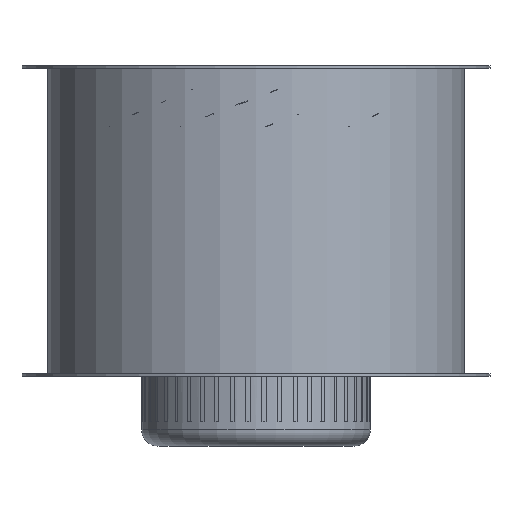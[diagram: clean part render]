
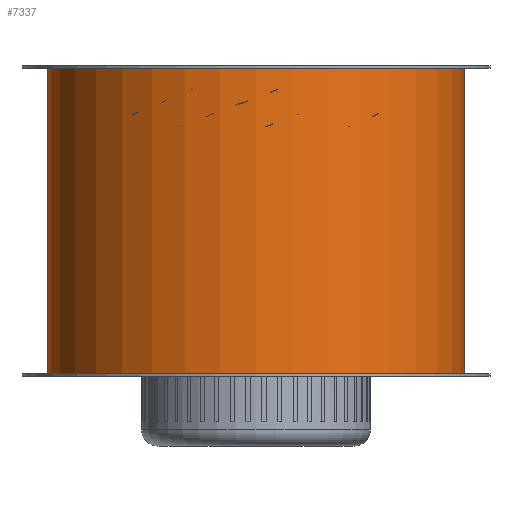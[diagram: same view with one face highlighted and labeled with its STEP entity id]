
A CAD part, front view. The second image highlights one B-rep face of the part: STEP entity #7337.
In plain terms, the highlighted cylindrical face has radius 254 mm (diameter 508 mm), a full revolution.
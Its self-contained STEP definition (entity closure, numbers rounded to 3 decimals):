
#711=FACE_OUTER_BOUND('',#1330,.T.);
#816=FACE_BOUND('',#1331,.T.);
#817=FACE_BOUND('',#1332,.T.);
#1330=EDGE_LOOP('',(#6681,#6682,#6683,#6684));
#1331=EDGE_LOOP('',(#6685,#6686));
#1332=EDGE_LOOP('',(#6687,#6688,#6689,#6690));
#1572=CIRCLE('',#7845,254.);
#1573=CIRCLE('',#7847,254.);
#1685=CIRCLE('',#8047,254.);
#1688=CIRCLE('',#8052,254.);
#1734=B_SPLINE_CURVE_WITH_KNOTS('',3,(#11641,#11642,#11643,#11644,#11645,
#11646,#11647,#11648,#11649,#11650),.UNSPECIFIED.,.F.,.F.,(4,2,2,2,4),(0.,
0.28,0.56,0.898,1.237),
 .UNSPECIFIED.);
#1735=B_SPLINE_CURVE_WITH_KNOTS('',3,(#11651,#11652,#11653,#11654,#11655,
#11656,#11657,#11658,#11659,#11660,#11661,#11662,#11663,#11664,#11665,#11666,
#11667,#11668,#11669,#11670,#11671,#11672,#11673,#11674,#11675,#11676),
 .UNSPECIFIED.,.F.,.F.,(4,2,2,2,2,2,2,2,2,2,2,2,4),(1.237,1.582,
1.926,2.207,2.488,2.769,3.05,
3.394,3.739,4.078,4.416,4.696,
4.976),.UNSPECIFIED.);
#2276=LINE('',#11741,#2807);
#2284=LINE('',#11756,#2815);
#2388=LINE('',#13932,#2919);
#2807=VECTOR('',#9442,10.);
#2815=VECTOR('',#9454,10.);
#2919=VECTOR('',#9980,254.);
#3388=VERTEX_POINT('',#11639);
#3389=VERTEX_POINT('',#11640);
#3397=VERTEX_POINT('',#11737);
#3399=VERTEX_POINT('',#11740);
#3403=VERTEX_POINT('',#11752);
#3404=VERTEX_POINT('',#11754);
#3575=VERTEX_POINT('',#13919);
#3578=VERTEX_POINT('',#13928);
#4255=EDGE_CURVE('',#3388,#3389,#1734,.T.);
#4256=EDGE_CURVE('',#3389,#3388,#1735,.T.);
#4271=EDGE_CURVE('',#3399,#3397,#2276,.T.);
#4279=EDGE_CURVE('',#3403,#3404,#2284,.T.);
#4280=EDGE_CURVE('',#3397,#3403,#1572,.T.);
#4281=EDGE_CURVE('',#3404,#3399,#1573,.T.);
#4615=EDGE_CURVE('',#3575,#3575,#1685,.T.);
#4619=EDGE_CURVE('',#3578,#3578,#1688,.T.);
#4620=EDGE_CURVE('',#3578,#3575,#2388,.T.);
#6681=ORIENTED_EDGE('',*,*,#4619,.T.);
#6682=ORIENTED_EDGE('',*,*,#4620,.T.);
#6683=ORIENTED_EDGE('',*,*,#4615,.T.);
#6684=ORIENTED_EDGE('',*,*,#4620,.F.);
#6685=ORIENTED_EDGE('',*,*,#4255,.T.);
#6686=ORIENTED_EDGE('',*,*,#4256,.T.);
#6687=ORIENTED_EDGE('',*,*,#4279,.T.);
#6688=ORIENTED_EDGE('',*,*,#4281,.T.);
#6689=ORIENTED_EDGE('',*,*,#4271,.T.);
#6690=ORIENTED_EDGE('',*,*,#4280,.T.);
#6803=CYLINDRICAL_SURFACE('',#8054,254.);
#7337=ADVANCED_FACE('',(#711,#816,#817),#6803,.T.);
#7845=AXIS2_PLACEMENT_3D('',#11758,#9457,#9458);
#7847=AXIS2_PLACEMENT_3D('',#11760,#9461,#9462);
#8047=AXIS2_PLACEMENT_3D('',#13920,#9963,#9964);
#8052=AXIS2_PLACEMENT_3D('',#13929,#9974,#9975);
#8054=AXIS2_PLACEMENT_3D('',#13931,#9978,#9979);
#9442=DIRECTION('',(0.,0.,-1.));
#9454=DIRECTION('',(0.,0.,1.));
#9457=DIRECTION('center_axis',(0.,0.,-1.));
#9458=DIRECTION('ref_axis',(-1.,0.,0.));
#9461=DIRECTION('center_axis',(0.,0.,1.));
#9462=DIRECTION('ref_axis',(-1.,0.,0.));
#9963=DIRECTION('center_axis',(0.,0.,1.));
#9964=DIRECTION('ref_axis',(-1.,0.,0.));
#9974=DIRECTION('center_axis',(0.,0.,-1.));
#9975=DIRECTION('ref_axis',(-1.,0.,0.));
#9978=DIRECTION('center_axis',(0.,0.,1.));
#9979=DIRECTION('ref_axis',(-1.,0.,0.));
#9980=DIRECTION('',(0.,0.,-1.));
#11639=CARTESIAN_POINT('',(-131.944,217.041,-114.));
#11640=CARTESIAN_POINT('',(-139.444,212.3,-106.5));
#11641=CARTESIAN_POINT('Ctrl Pts',(-131.944,217.041,-114.));
#11642=CARTESIAN_POINT('Ctrl Pts',(-131.944,217.041,-113.067));
#11643=CARTESIAN_POINT('Ctrl Pts',(-132.13,216.928,-112.084));
#11644=CARTESIAN_POINT('Ctrl Pts',(-132.85,216.488,-110.301));
#11645=CARTESIAN_POINT('Ctrl Pts',(-133.383,216.161,-109.501));
#11646=CARTESIAN_POINT('Ctrl Pts',(-134.68,215.356,-108.116));
#11647=CARTESIAN_POINT('Ctrl Pts',(-135.57,214.798,-107.495));
#11648=CARTESIAN_POINT('Ctrl Pts',(-137.481,213.58,-106.688));
#11649=CARTESIAN_POINT('Ctrl Pts',(-138.501,212.919,-106.5));
#11650=CARTESIAN_POINT('Ctrl Pts',(-139.444,212.3,-106.5));
#11651=CARTESIAN_POINT('Ctrl Pts',(-139.444,212.3,-106.5));
#11652=CARTESIAN_POINT('Ctrl Pts',(-140.405,211.669,-106.5));
#11653=CARTESIAN_POINT('Ctrl Pts',(-141.435,210.983,-106.694));
#11654=CARTESIAN_POINT('Ctrl Pts',(-143.35,209.686,-107.513));
#11655=CARTESIAN_POINT('Ctrl Pts',(-144.236,209.076,-108.137));
#11656=CARTESIAN_POINT('Ctrl Pts',(-145.518,208.185,-109.519));
#11657=CARTESIAN_POINT('Ctrl Pts',(-146.044,207.816,-110.311));
#11658=CARTESIAN_POINT('Ctrl Pts',(-146.758,207.312,-112.083));
#11659=CARTESIAN_POINT('Ctrl Pts',(-146.944,207.179,-113.064));
#11660=CARTESIAN_POINT('Ctrl Pts',(-146.944,207.179,-114.936));
#11661=CARTESIAN_POINT('Ctrl Pts',(-146.758,207.312,-115.917));
#11662=CARTESIAN_POINT('Ctrl Pts',(-146.044,207.816,-117.689));
#11663=CARTESIAN_POINT('Ctrl Pts',(-145.518,208.185,-118.481));
#11664=CARTESIAN_POINT('Ctrl Pts',(-144.236,209.076,-119.863));
#11665=CARTESIAN_POINT('Ctrl Pts',(-143.35,209.686,-120.487));
#11666=CARTESIAN_POINT('Ctrl Pts',(-141.435,210.983,-121.306));
#11667=CARTESIAN_POINT('Ctrl Pts',(-140.405,211.669,-121.5));
#11668=CARTESIAN_POINT('Ctrl Pts',(-138.501,212.919,-121.5));
#11669=CARTESIAN_POINT('Ctrl Pts',(-137.481,213.58,-121.312));
#11670=CARTESIAN_POINT('Ctrl Pts',(-135.57,214.798,-120.505));
#11671=CARTESIAN_POINT('Ctrl Pts',(-134.68,215.356,-119.884));
#11672=CARTESIAN_POINT('Ctrl Pts',(-133.383,216.161,-118.499));
#11673=CARTESIAN_POINT('Ctrl Pts',(-132.85,216.488,-117.699));
#11674=CARTESIAN_POINT('Ctrl Pts',(-132.13,216.928,-115.916));
#11675=CARTESIAN_POINT('Ctrl Pts',(-131.944,217.041,-114.933));
#11676=CARTESIAN_POINT('Ctrl Pts',(-131.944,217.041,-114.));
#11737=CARTESIAN_POINT('',(-92.963,236.377,-177.));
#11740=CARTESIAN_POINT('',(-92.963,236.377,-51.));
#11741=CARTESIAN_POINT('',(-92.963,236.377,0.));
#11752=CARTESIAN_POINT('',(92.963,236.377,-177.));
#11754=CARTESIAN_POINT('',(92.963,236.377,-51.));
#11756=CARTESIAN_POINT('',(92.963,236.377,0.));
#11758=CARTESIAN_POINT('Origin',(0.,0.,-177.));
#11760=CARTESIAN_POINT('Origin',(0.,0.,-51.));
#13919=CARTESIAN_POINT('',(254.,0.,-186.));
#13920=CARTESIAN_POINT('Origin',(0.,0.,-186.));
#13928=CARTESIAN_POINT('',(254.,0.,186.));
#13929=CARTESIAN_POINT('Origin',(0.,0.,186.));
#13931=CARTESIAN_POINT('Origin',(0.,0.,0.));
#13932=CARTESIAN_POINT('',(254.,0.,0.));
